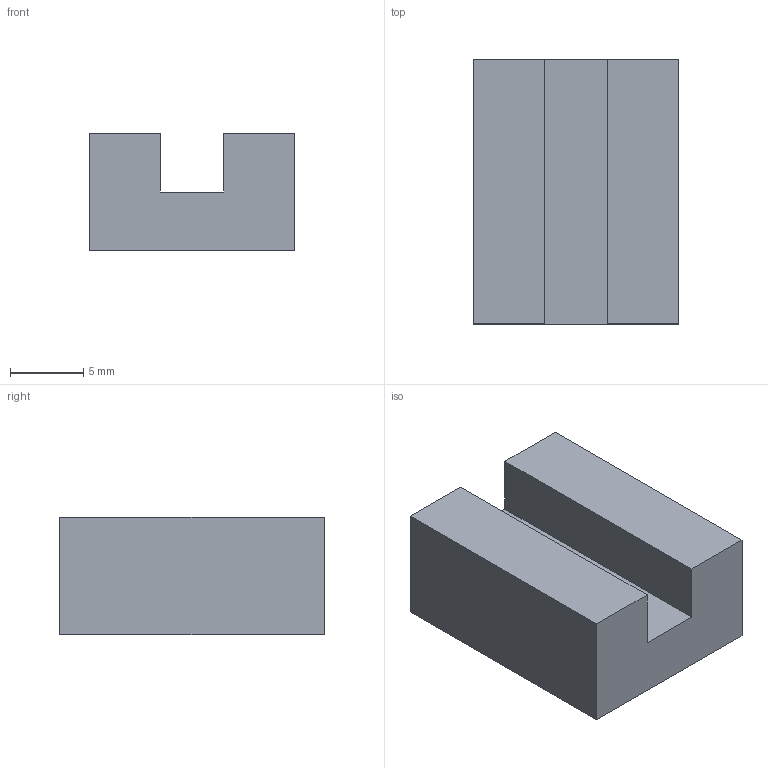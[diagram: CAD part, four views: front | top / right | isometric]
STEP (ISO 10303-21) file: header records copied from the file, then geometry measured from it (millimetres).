
FILE_DESCRIPTION(('Open CASCADE Model'),'2;1');
FILE_NAME('Open CASCADE Shape Model','2026-09-12T16:48:05',('Author'),( 'Open CASCADE'),'Open CASCADE STEP processor 7.9','Open CASCADE 7.9' ,'Unknown');
FILE_SCHEMA(('AUTOMOTIVE_DESIGN { 1 0 10303 214 1 1 1 1 }'));
Length unit declared in the file: millimetre
Products named in the file (1): Open CASCADE STEP translator 7.9 13
Bounding box: 14 x 18 x 8 mm (x, y, z)
Volume: 1706.4 mm3; surface area: 1125.6 mm2
Topology: 1 solids, 1 shells, 10 faces, 24 edges, 16 vertices
Faces by surface type: plane 10
Entity records: 594 total; most frequent: CARTESIAN_POINT 115, DIRECTION 78, LINE 56, VECTOR 56, ORIENTED_EDGE 48, PCURVE 48, DEFINITIONAL_REPRESENTATION 48, EDGE_CURVE 24
